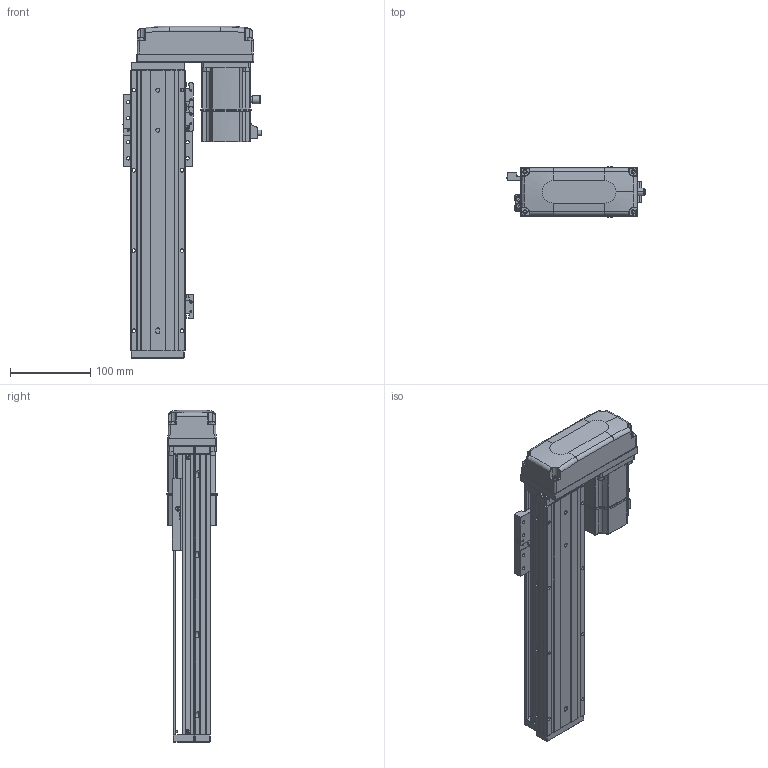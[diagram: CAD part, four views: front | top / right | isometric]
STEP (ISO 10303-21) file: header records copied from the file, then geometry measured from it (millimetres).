
FILE_DESCRIPTION (( 'STEP AP203' ), '1' );
FILE_NAME ('KTHAL60-200-BL-M20-C4L.step', '2022-12-16T02:05:40', ( '微软用户' ), ( '微软中国' ), 'SwSTEP 2.0', 'SolidWorks 2020', '' );
FILE_SCHEMA (( 'CONFIG_CONTROL_DESIGN' ));
Length unit declared in the file: millimetre
Products named in the file (17): KTHA60-004; GBT 70.1-M4×16; KTHAL60-200-BL-M20-C4L; KTHA60-005; GBT77-2000M3-3; GB¨uT 70.2-M3¡Á5_M3¡Á6; GBT 70.1-M3℅6; GBT 70.3-M3℅6; CTHA60-016; EE_SX911P_R; _X2_4E0983F1_X0_200W_1; KTHA60-001_350; CTHA60-017; CTHA60-015-4_CTHA60-015-4; KTHLA60-002; CTHA60-021; GTH80-026
Assembly tree (45 placements, depth 2):
  KTHAL60-200-BL-M20-C4L
    KTHA60-001_350
    KTHLA60-002
    KTHA60-004
    KTHA60-005
    GB¨uT 70.2-M3¡Á5_M3¡Á6  x5
    GBT 70.3-M3℅6  x4
    EE_SX911P_R  x3
    CTHA60-017  x3
    CTHA60-021  x2
    GBT 70.1-M4×16  x8
    GBT77-2000M3-3  x6
    GBT 70.1-M3℅6  x6
    CTHA60-016
    _X2_4E0983F1_X0_200W_1
    CTHA60-015-4_CTHA60-015-4
    GTH80-026
Bounding box: 172.2 x 62.42 x 414 mm (x, y, z)
Volume: 1432183.5 mm3; surface area: 289093.1 mm2
Topology: 48 solids, 48 shells, 2291 faces, 5436 edges, 3337 vertices
Faces by surface type: plane 1223, cylinder 605, cone 264, bspline 103, torus 82, sphere 14
Entity records: 43955 total; most frequent: CARTESIAN_POINT 9930, DIRECTION 6591, ORIENTED_EDGE 6496, EDGE_CURVE 3248, AXIS2_PLACEMENT_3D 2282, LINE 2027, VECTOR 2027, VERTEX_POINT 2021
